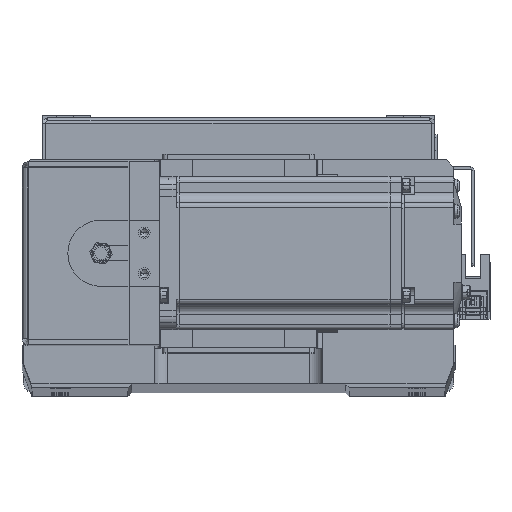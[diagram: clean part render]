
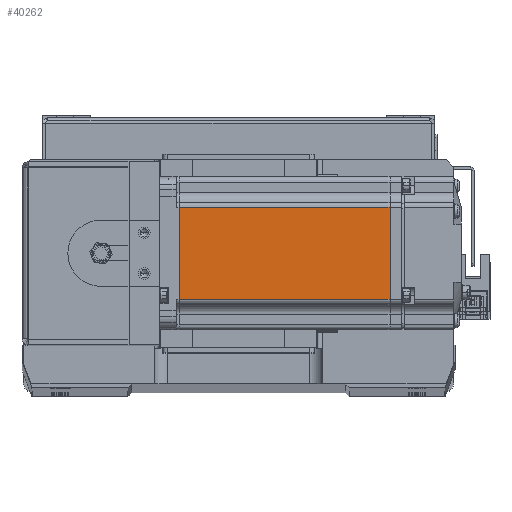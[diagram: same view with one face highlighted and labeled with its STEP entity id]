
A CAD part, top view. The second image highlights one B-rep face of the part: STEP entity #40262.
In plain terms, the highlighted planar face has unit normal (0, 0, 1) as drawn and (0, 1, 0) by its records, which use the part's own axes.
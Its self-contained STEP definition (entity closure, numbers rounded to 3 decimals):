
#1020 = LINE ( 'NONE', #26264, #40594 ) ;
#1636 = VERTEX_POINT ( 'NONE', #9160 ) ;
#4569 = EDGE_CURVE ( 'NONE', #28855, #19379, #1020, .T. ) ;
#4691 = PLANE ( 'NONE',  #39264 ) ;
#4773 = CARTESIAN_POINT ( 'NONE',  ( -7.75, 30., 18. ) ) ;
#6272 = EDGE_CURVE ( 'NONE', #1636, #19379, #24978, .T. ) ;
#7825 = CARTESIAN_POINT ( 'NONE',  ( -7.75, 30., -18. ) ) ;
#8924 = VERTEX_POINT ( 'NONE', #31395 ) ;
#9160 = CARTESIAN_POINT ( 'NONE',  ( -90.45, 30., 18. ) ) ;
#9438 = VECTOR ( 'NONE', #24791, 1000. ) ;
#10407 = DIRECTION ( 'NONE',  ( 0., 0., 1. ) ) ;
#12211 = EDGE_LOOP ( 'NONE', ( #33566, #14271, #22329, #36344 ) ) ;
#14271 = ORIENTED_EDGE ( 'NONE', *, *, #16851, .T. ) ;
#16851 = EDGE_CURVE ( 'NONE', #28855, #8924, #20204, .T. ) ;
#17403 = DIRECTION ( 'NONE',  ( 0., 1., 0. ) ) ;
#19379 = VERTEX_POINT ( 'NONE', #4773 ) ;
#20204 = LINE ( 'NONE', #39583, #37299 ) ;
#20530 = EDGE_CURVE ( 'NONE', #8924, #1636, #28984, .T. ) ;
#22329 = ORIENTED_EDGE ( 'NONE', *, *, #20530, .T. ) ;
#24791 = DIRECTION ( 'NONE',  ( 1., 0., 0. ) ) ;
#24978 = LINE ( 'NONE', #40599, #9438 ) ;
#26264 = CARTESIAN_POINT ( 'NONE',  ( -7.75, 30., 0. ) ) ;
#27078 = VECTOR ( 'NONE', #29172, 1000. ) ;
#28855 = VERTEX_POINT ( 'NONE', #7825 ) ;
#28984 = LINE ( 'NONE', #38195, #27078 ) ;
#29172 = DIRECTION ( 'NONE',  ( 0., 0., 1. ) ) ;
#30305 = DIRECTION ( 'NONE',  ( 0., 0., 1. ) ) ;
#31395 = CARTESIAN_POINT ( 'NONE',  ( -90.45, 30., -18. ) ) ;
#32793 = FACE_OUTER_BOUND ( 'NONE', #12211, .T. ) ;
#33566 = ORIENTED_EDGE ( 'NONE', *, *, #4569, .F. ) ;
#36344 = ORIENTED_EDGE ( 'NONE', *, *, #6272, .T. ) ;
#37299 = VECTOR ( 'NONE', #39782, 1000. ) ;
#38195 = CARTESIAN_POINT ( 'NONE',  ( -90.45, 30., 0. ) ) ;
#39264 = AXIS2_PLACEMENT_3D ( 'NONE', #39277, #17403, #30305 ) ;
#39277 = CARTESIAN_POINT ( 'NONE',  ( -6.5, 30., 25. ) ) ;
#39583 = CARTESIAN_POINT ( 'NONE',  ( -6.5, 30., -18. ) ) ;
#39782 = DIRECTION ( 'NONE',  ( -1., 0., 0. ) ) ;
#40262 = ADVANCED_FACE ( 'NONE', ( #32793 ), #4691, .T. ) ;
#40594 = VECTOR ( 'NONE', #10407, 1000. ) ;
#40599 = CARTESIAN_POINT ( 'NONE',  ( -6.5, 30., 18. ) ) ;
